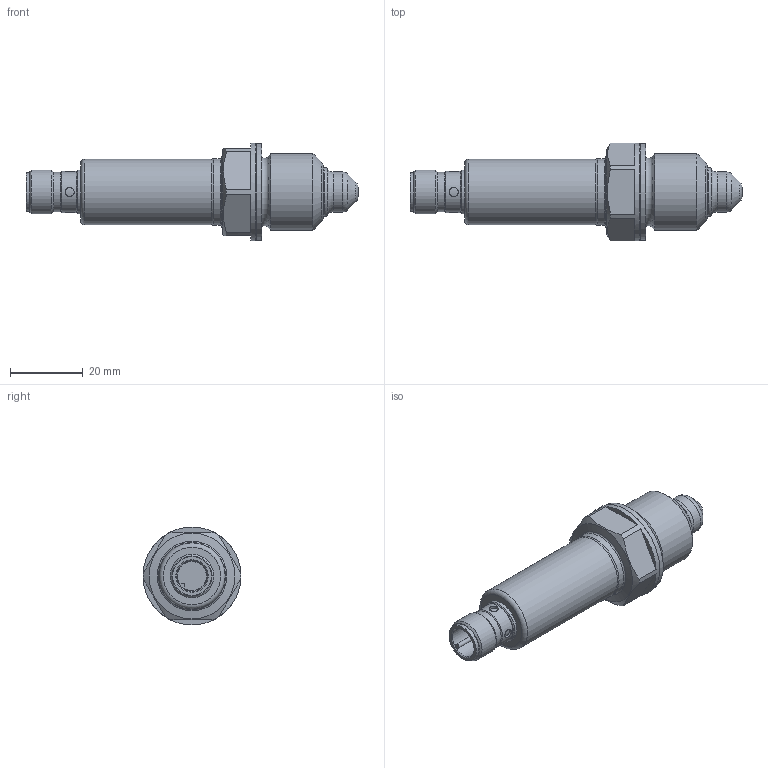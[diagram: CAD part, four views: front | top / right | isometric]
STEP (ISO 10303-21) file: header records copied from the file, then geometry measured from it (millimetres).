
FILE_DESCRIPTION( ( 'STEP AP203' ), ' ' );
FILE_NAME( 'p:/temp/worker_2416/2716_2924/app_50_02017061210522137206737192d056f_000000_00_00_000000/format_1/LMC100.stp', '2017-06-12T08:52:22', ( '' ), ( '' ), ' ', 'PARTsolutions', ' ' );
FILE_SCHEMA( ( 'CONFIG_CONTROL_DESIGN' ) );
Length unit declared in the file: millimetre
Products named in the file (1): _LMC100
Bounding box: 91.2 x 26.9 x 26.9 mm (x, y, z)
Volume: 22840.3 mm3; surface area: 6334.4 mm2
Topology: 1 solids, 1 shells, 70 faces, 147 edges, 88 vertices
Faces by surface type: cylinder 23, plane 23, cone 12, torus 11, bspline 1
Full cylindrical faces by diameter (mm): 2.5 x4, 8.4 x1, 10.6 x1, 10.8 x1, 11 x1, 11.3 x1, 12 x2, 13.4 x1, 18.1 x1, 18.4 x1, 20.955 x1, 21.3 x1, 26.5 x1, 26.9 x1
Entity records: 2023 total; most frequent: CARTESIAN_POINT 667, DIRECTION 284, ORIENTED_EDGE 202, AXIS2_PLACEMENT_3D 129, EDGE_LOOP 121, EDGE_CURVE 101, FACE_OUTER_BOUND 99, VERTEX_POINT 84
